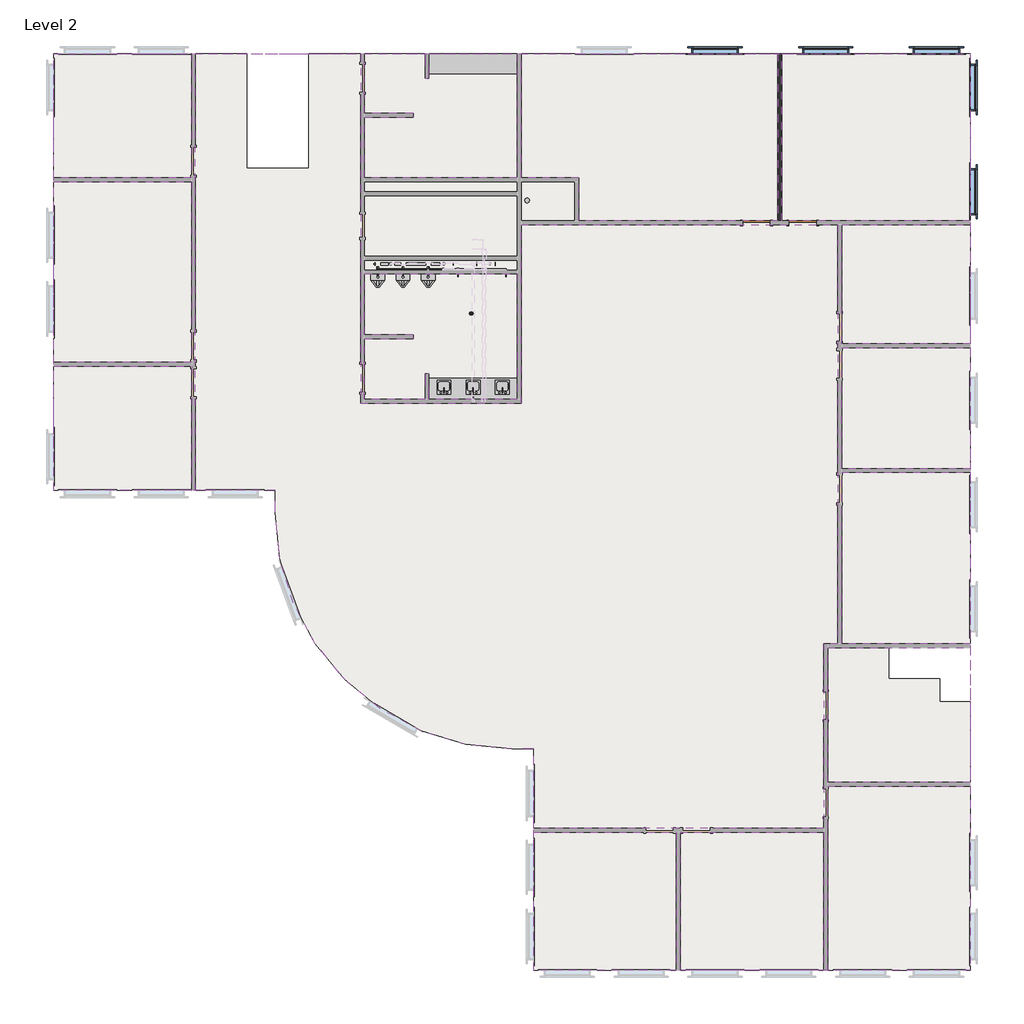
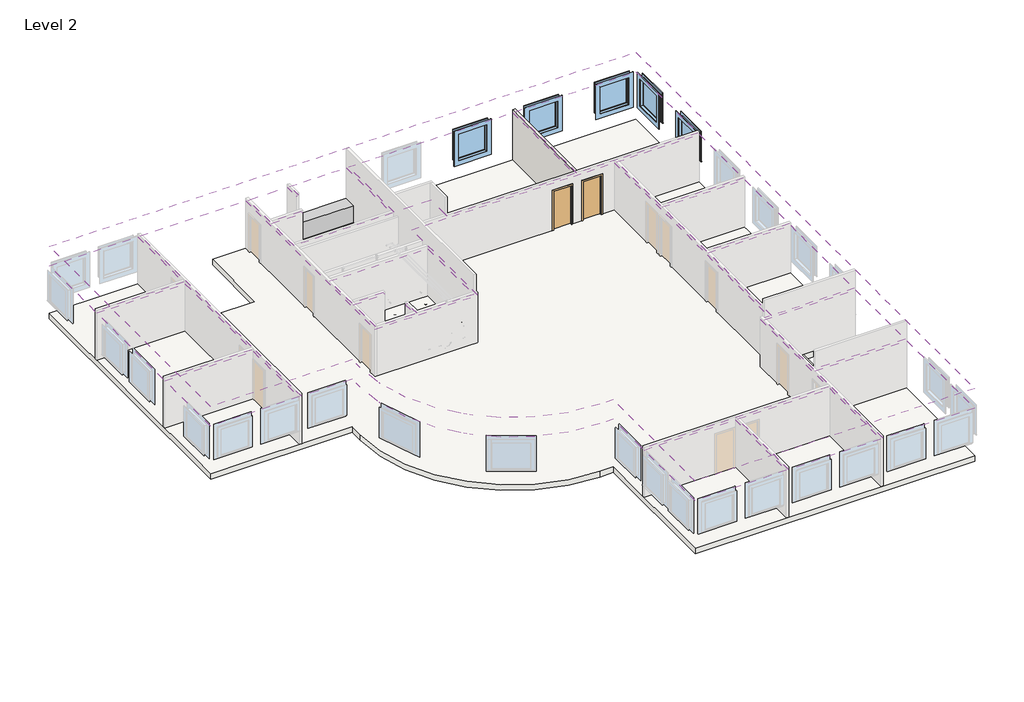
# One storey, part 2 of 5: 15 coverings, 15 pipe segments, 10 flow terminals, 10 pipe fittings, 5 windows, 2 doors, 1 furniture element, 1 roof, 2 other elements.
"""IFC4 building model written with IfcOpenShell, lengths in millimetres."""

from ifc_helpers import new_model, si_unit, point, frame, frame_2d, origin, place, context, project, spatial, polyline, circle_curve, trimmed, segment, composite_curve, outline, extrude, transform, mapped, element, save
from components import door_a1797ceb, door_a3eb833a, flow_terminal_7a061d0c, sink_single_island_private_d5797e09, wall_hung_urinal_standard_f329d971, restroom_cabinet1_restroom_cabinet_eb429586, pipe_elbow_standard_aad62f2d, pipe_elbow_standard_feaaf02c, pipe_pvc_bend_standard_01578e85, pipe_pvc_bend_standard_4dc80f69, pipe_pvc_bend_standard_44ef5a01, pipe_pvc_bend_standard_adf20049, pipe_tee_standard_ee363fbf, fixed_edddcce4

model = new_model("IFC4")

# Units and contexts
model_context = context("Model", 3, world=origin())
ifc_project = project(units=[si_unit("LENGTHUNIT", "METRE", prefix="MILLI")], contexts=[model_context])

# Site, building, storey
site = spatial("IfcSite", under=ifc_project)
building = spatial("IfcBuilding", under=site)
storey = spatial("IfcBuildingStorey", under=building, Name="Level 2", Elevation=3657.6)

# Coverings
placement = place(None, origin())
element("IfcCovering", 1, ObjectType="2' x 2' ACT System", at=placement, inside=storey, context=model_context, shape_type="SweptSolid", body=[
    extrude(outline(polyline([(-4905.3842504, 14991.2099268), (-347.6717504, 14991.2099268), (-347.6717504, 10889.1099268), (-4905.3842504, 10889.1099268), (-4905.3842504, 14991.2099268)])), frame((0.0, 0.0, 6248.4), z_axis=(0.0, 0.0, 1.0), x_axis=(1.0, 0.0, 0.0)), (0.0, 0.0, 1.0), 57.15),
])
element("IfcCovering", 2, ObjectType="2' x 2' ACT System", at=placement, inside=storey, context=model_context, shape_type="SweptSolid", body=[
    extrude(outline(polyline([(-4905.3842504, 4793.1099268), (-4905.3842504, 10762.1099268), (-347.6717504, 10762.1099268), (-347.6717504, 4793.1099268), (-4905.3842504, 4793.1099268)])), frame((0.0, 0.0, 6248.4), z_axis=(0.0, 0.0, 1.0), x_axis=(1.0, 0.0, 0.0)), (0.0, 0.0, 1.0), 57.15),
])
element("IfcCovering", 3, ObjectType="2' x 2' ACT System", at=placement, inside=storey, context=model_context, shape_type="SweptSolid", body=[
    extrude(outline(polyline([(-4905.3842504, 564.0099268), (-4905.3842504, 4666.1099268), (-347.6717504, 4666.1099268), (-347.6717504, 564.0099268), (-4905.3842504, 564.0099268)])), frame((0.0, 0.0, 6248.4), z_axis=(0.0, 0.0, 1.0), x_axis=(1.0, 0.0, 0.0)), (0.0, 0.0, 1.0), 57.15),
])
element("IfcCovering", 4, ObjectType="2' x 2' ACT System", at=placement, inside=storey, context=model_context, shape_type="SweptSolid", body=[
    extrude(outline(composite_curve([segment(polyline([(-220.6717504, 564.0099268), (-220.6717504, 14991.2099268), (5229.2157496, 14991.2099268), (5229.2157496, 3446.9099268), (10537.8157496, 3446.9099268), (10537.8157496, 9339.7099268), (20989.9157496, 9339.7099268), (20989.9157496, -4503.2900732), (20532.7157496, -4503.2900732), (20532.7157496, -10599.2900732), (10944.2157496, -10599.2900732), (10944.2157496, -7970.3900732), (10233.0157496, -7970.3900732)]), True, "CONTINUOUS"), segment(trimmed(circle_curve(frame_2d((10233.0157496, -147.1900732)), 7823.2), [point((10233.0157496, -7970.3900732))], [point((2409.8157496, -147.1900732))], False, "CARTESIAN"), True, "CONTINUOUS"), segment(polyline([(2409.8157496, -147.1900732), (2409.8157496, 564.0099268), (-220.6717504, 564.0099268)]), True, "CONTINUOUS")], self_intersect=False)), frame((0.0, 0.0, 6248.4), z_axis=(0.0, 0.0, 1.0), x_axis=(1.0, 0.0, 0.0)), (0.0, 0.0, 1.0), 57.15),
])
element("IfcCovering", 5, ObjectType="2' x 2' ACT System", at=placement, inside=storey, context=model_context, shape_type="SweptSolid", body=[
    extrude(outline(polyline([(6969.1157496, 5707.5099268), (5356.2157496, 5707.5099268), (5356.2157496, 7714.1099268), (10410.8157496, 7714.1099268), (10410.8157496, 3573.9099268), (7489.8157496, 3573.9099268), (7489.8157496, 4424.8099268), (7362.8157496, 4424.8099268), (7362.8157496, 3573.9099268), (5356.2157496, 3573.9099268), (5356.2157496, 5580.5099268), (6969.1157496, 5580.5099268), (6969.1157496, 5707.5099268)])), frame((0.0, 0.0, 6248.4), z_axis=(0.0, 0.0, 1.0), x_axis=(1.0, 0.0, 0.0)), (0.0, 0.0, 1.0), 57.15),
])
element("IfcCovering", 6, ObjectType="2' x 2' ACT System", at=placement, inside=storey, context=model_context, shape_type="SweptSolid", body=[
    extrude(outline(polyline([(5356.2157496, 13022.7099268), (5356.2157496, 14991.2099268), (7362.8157496, 14991.2099268), (7362.8157496, 14178.4099268), (7489.8157496, 14178.4099268), (7489.8157496, 14991.2099268), (10410.8157496, 14991.2099268), (10410.8157496, 10889.1099268), (5356.2157496, 10889.1099268), (5356.2157496, 12895.7099268), (6969.1157496, 12895.7099268), (6969.1157496, 13022.7099268), (5356.2157496, 13022.7099268)])), frame((0.0, 0.0, 6248.4), z_axis=(0.0, 0.0, 1.0), x_axis=(1.0, 0.0, 0.0)), (0.0, 0.0, 1.0), 57.15),
])
element("IfcCovering", 7, ObjectType="2' x 2' ACT System", at=placement, inside=storey, context=model_context, shape_type="SweptSolid", body=[
    extrude(outline(polyline([(10537.8157496, 14991.2099268), (19008.7157496, 14991.2099268), (19008.7157496, 9466.7099268), (12430.1157496, 9466.7099268), (12430.1157496, 10889.1099268), (10537.8157496, 10889.1099268), (10537.8157496, 14991.2099268)])), frame((0.0, 0.0, 6248.4), z_axis=(0.0, 0.0, 1.0), x_axis=(1.0, 0.0, 0.0)), (0.0, 0.0, 1.0), 57.15),
])
element("IfcCovering", 8, ObjectType="2' x 2' ACT System", at=placement, inside=storey, context=model_context, shape_type="SweptSolid", body=[
    extrude(outline(polyline([(19135.7157496, 9466.7099268), (19135.7157496, 14991.2099268), (25371.4157496, 14991.2099268), (25371.4157496, 9466.7099268), (19135.7157496, 9466.7099268)])), frame((0.0, 0.0, 6248.4), z_axis=(0.0, 0.0, 1.0), x_axis=(1.0, 0.0, 0.0)), (0.0, 0.0, 1.0), 57.15),
])
element("IfcCovering", 9, ObjectType="2' x 2' ACT System", at=placement, inside=storey, context=model_context, shape_type="SweptSolid", body=[
    extrude(outline(polyline([(25371.4157496, 9339.7099268), (25371.4157496, 5402.7099268), (21116.9157496, 5402.7099268), (21116.9157496, 9339.7099268), (25371.4157496, 9339.7099268)])), frame((0.0, 0.0, 6248.4), z_axis=(0.0, 0.0, 1.0), x_axis=(1.0, 0.0, 0.0)), (0.0, 0.0, 1.0), 57.15),
])
element("IfcCovering", 10, ObjectType="2' x 2' ACT System", at=placement, inside=storey, context=model_context, shape_type="SweptSolid", body=[
    extrude(outline(polyline([(25371.4157496, 5275.7099268), (25371.4157496, 1287.9099268), (21116.9157496, 1287.9099268), (21116.9157496, 5275.7099268), (25371.4157496, 5275.7099268)])), frame((0.0, 0.0, 6248.4), z_axis=(0.0, 0.0, 1.0), x_axis=(1.0, 0.0, 0.0)), (0.0, 0.0, 1.0), 57.15),
])
element("IfcCovering", 11, ObjectType="2' x 2' ACT System", at=placement, inside=storey, context=model_context, shape_type="SweptSolid", body=[
    extrude(outline(polyline([(25371.4157496, 1160.9099268), (25371.4157496, -4503.2900732), (21116.9157496, -4503.2900732), (21116.9157496, 1160.9099268), (25371.4157496, 1160.9099268)])), frame((0.0, 0.0, 6248.4), z_axis=(0.0, 0.0, 1.0), x_axis=(1.0, 0.0, 0.0)), (0.0, 0.0, 1.0), 57.15),
])
element("IfcCovering", 12, ObjectType="2' x 2' ACT System", at=placement, inside=storey, context=model_context, shape_type="SweptSolid", body=[
    extrude(outline(polyline([(25371.4157496, -4630.2900732), (25371.4157496, -9075.2900732), (20659.7157496, -9075.2900732), (20659.7157496, -4630.2900732), (25371.4157496, -4630.2900732)])), frame((0.0, 0.0, 6248.4), z_axis=(0.0, 0.0, 1.0), x_axis=(1.0, 0.0, 0.0)), (0.0, 0.0, 1.0), 57.15),
])
element("IfcCovering", 13, ObjectType="2' x 2' ACT System", at=placement, inside=storey, context=model_context, shape_type="SweptSolid", body=[
    extrude(outline(polyline([(25371.4157496, -9202.2900732), (25371.4157496, -15285.5900732), (20659.7157496, -15285.5900732), (20659.7157496, -9202.2900732), (25371.4157496, -9202.2900732)])), frame((0.0, 0.0, 6248.4), z_axis=(0.0, 0.0, 1.0), x_axis=(1.0, 0.0, 0.0)), (0.0, 0.0, 1.0), 57.15),
])
element("IfcCovering", 14, ObjectType="2' x 2' ACT System", at=placement, inside=storey, context=model_context, shape_type="SweptSolid", body=[
    extrude(outline(polyline([(20532.7157496, -15285.5900732), (15782.9157496, -15285.5900732), (15782.9157496, -10726.2900732), (20532.7157496, -10726.2900732), (20532.7157496, -15285.5900732)])), frame((0.0, 0.0, 6248.4), z_axis=(0.0, 0.0, 1.0), x_axis=(1.0, 0.0, 0.0)), (0.0, 0.0, 1.0), 57.15),
])
element("IfcCovering", 15, ObjectType="2' x 2' ACT System", at=placement, inside=storey, context=model_context, shape_type="SweptSolid", body=[
    extrude(outline(polyline([(15655.9157496, -15285.5900732), (10944.2157496, -15285.5900732), (10944.2157496, -10726.2900732), (15655.9157496, -10726.2900732), (15655.9157496, -15285.5900732)])), frame((0.0, 0.0, 6248.4), z_axis=(0.0, 0.0, 1.0), x_axis=(1.0, 0.0, 0.0)), (0.0, 0.0, 1.0), 57.15),
])

# Doors
door_shape = door_a1797ceb(model_context)
element("IfcDoor", 16, ObjectType="Sgl Flush : 36\" x 84\"", at=placement, inside=storey, context=model_context, shape_type="MappedRepresentation", body=[
    mapped(door_shape, transform((18310.2157496, 9403.2099268, 3657.6), x_axis=(1.0, 0.0, 0.0), y_axis=(0.0, 1.0, 0.0), z_axis=(0.0, 0.0, 1.0))),
])
door_2_shape = door_a3eb833a(model_context)
element("IfcDoor", 17, ObjectType="Sgl Flush : 36\" x 84\"", at=placement, inside=storey, context=model_context, shape_type="MappedRepresentation", body=[
    mapped(door_2_shape, transform((19834.2157496, 9403.2099268, 3657.6), x_axis=(-1.0, 0.0, 0.0), y_axis=(0.0, -1.0, 0.0), z_axis=(0.0, 0.0, 1.0))),
])

# Flow terminals
flow_terminal_shape = flow_terminal_7a061d0c(model_context)
element("IfcFlowTerminal", 18, ObjectType="Round Floor Drain : 5\"", at=placement, inside=storey, context=model_context, shape_type="MappedRepresentation", body=[
    mapped(flow_terminal_shape, transform((8886.9621646, 6409.1849268, 3657.6), x_axis=(1.0, 0.0, 0.0), y_axis=(0.0, 1.0, 0.0), z_axis=(0.0, 0.0, 1.0))),
])
sink_single_island_private_shape = sink_single_island_private_d5797e09(model_context)
element("IfcFlowTerminal", 19, ObjectType="Sink - Single Island : Public", at=placement, inside=storey, context=model_context, shape_type="MappedRepresentation", body=[
    mapped(sink_single_island_private_shape, transform((7985.1157496, 3967.6099268, 4572.0), x_axis=(-1.0, 0.0, 0.0), y_axis=(0.0, -1.0, 0.0), z_axis=(0.0, 0.0, 1.0))),
])
element("IfcFlowTerminal", 20, ObjectType="Sink - Single Island : Public", at=placement, inside=storey, context=model_context, shape_type="MappedRepresentation", body=[
    mapped(sink_single_island_private_shape, transform((8950.3157496, 3967.6099268, 4572.0), x_axis=(-1.0, 0.0, 0.0), y_axis=(0.0, -1.0, 0.0), z_axis=(0.0, 0.0, 1.0))),
])
element("IfcFlowTerminal", 21, ObjectType="Sink - Single Island : Public", at=placement, inside=storey, context=model_context, shape_type="MappedRepresentation", body=[
    mapped(sink_single_island_private_shape, transform((9915.5157496, 3967.6099268, 4572.0), x_axis=(-1.0, 0.0, 0.0), y_axis=(0.0, -1.0, 0.0), z_axis=(0.0, 0.0, 1.0))),
])
wall_hung_urinal_standard_shape = wall_hung_urinal_standard_f329d971(model_context)
element("IfcFlowTerminal", 22, ObjectType="Wall Hung Urinal : Standard", at=placement, inside=storey, context=model_context, shape_type="MappedRepresentation", body=[
    mapped(wall_hung_urinal_standard_shape, transform((5800.3032049, 7714.1099268, 4267.2), x_axis=(1.0, 0.0, 0.0), y_axis=(0.0, 0.0, 1.0), z_axis=(0.0, -1.0, 0.0))),
])
element("IfcFlowTerminal", 23, ObjectType="Wall Hung Urinal : Standard", at=placement, inside=storey, context=model_context, shape_type="MappedRepresentation", body=[
    mapped(wall_hung_urinal_standard_shape, transform((6632.6375309, 7714.1099268, 4267.2), x_axis=(1.0, 0.0, 0.0), y_axis=(0.0, 0.0, 1.0), z_axis=(0.0, -1.0, 0.0))),
])
element("IfcFlowTerminal", 24, ObjectType="Wall Hung Urinal : Standard", at=placement, inside=storey, context=model_context, shape_type="MappedRepresentation", body=[
    mapped(wall_hung_urinal_standard_shape, transform((7464.487817, 7714.1099268, 4267.2), x_axis=(1.0, 0.0, 0.0), y_axis=(0.0, 0.0, 1.0), z_axis=(0.0, -1.0, 0.0))),
])
element("IfcFlowTerminal", 25, ObjectType="Wall Hung Urinal : Standard", at=placement, inside=storey, context=model_context, shape_type="MappedRepresentation", body=[
    mapped(wall_hung_urinal_standard_shape, transform((5800.3032049, 7714.1099268, 609.6), x_axis=(1.0, 0.0, 0.0), y_axis=(0.0, 0.0, 1.0), z_axis=(0.0, -1.0, 0.0))),
])
element("IfcFlowTerminal", 26, ObjectType="Wall Hung Urinal : Standard", at=placement, inside=storey, context=model_context, shape_type="MappedRepresentation", body=[
    mapped(wall_hung_urinal_standard_shape, transform((6645.0594773, 7714.1099268, 609.6), x_axis=(1.0, 0.0, 0.0), y_axis=(0.0, 0.0, 1.0), z_axis=(0.0, -1.0, 0.0))),
])
element("IfcFlowTerminal", 27, ObjectType="Wall Hung Urinal : Standard", at=placement, inside=storey, context=model_context, shape_type="MappedRepresentation", body=[
    mapped(wall_hung_urinal_standard_shape, transform((7489.8157496, 7714.1099268, 609.6), x_axis=(1.0, 0.0, 0.0), y_axis=(0.0, 0.0, 1.0), z_axis=(0.0, -1.0, 0.0))),
])

# Furniture
restroom_cabinet1_restroom_cabinet_shape = restroom_cabinet1_restroom_cabinet_eb429586(model_context)
element("IfcFurniture", 28, ObjectType="Restroom Cabinet1 : Restroom Cabinet", at=placement, inside=storey, context=model_context, shape_type="MappedRepresentation", body=[
    mapped(restroom_cabinet1_restroom_cabinet_shape, transform((141.4980289, -20.9577736, 0.0), x_axis=(1.0, 0.0, 0.0), y_axis=(0.0, 1.0, 0.0), z_axis=(0.0, 0.0, 1.0))),
])

# Pipe fittings
pipe_elbow_standard_shape = pipe_elbow_standard_aad62f2d(model_context)
element("IfcPipeFitting", 29, ObjectType="Pipe Elbow : Standard", at=placement, inside=storey, context=model_context, shape_type="MappedRepresentation", body=[
    mapped(pipe_elbow_standard_shape, transform((7883.5157496, 3793.5640359, 4419.6), x_axis=(0.0, 0.0, -1.0), y_axis=(0.0, -1.0, 0.0), z_axis=(-1.0, 0.0, 0.0))),
])
element("IfcPipeFitting", 30, ObjectType="Pipe Elbow : Standard", at=placement, inside=storey, context=model_context, shape_type="MappedRepresentation", body=[
    mapped(pipe_elbow_standard_shape, transform((7883.5157496, 3641.1640359, 4419.6), x_axis=(0.0, -1.0, 0.0), y_axis=(1.0, 0.0, 0.0), z_axis=(0.0, 0.0, 1.0))),
])
pipe_elbow_standard_2_shape = pipe_elbow_standard_feaaf02c(model_context)
element("IfcPipeFitting", 31, ObjectType="Pipe Elbow : Standard", at=placement, inside=storey, context=model_context, shape_type="MappedRepresentation", body=[
    mapped(pipe_elbow_standard_2_shape, transform((5800.3032049, 7611.3193018, 4679.1562398), x_axis=(0.0, 0.0, 1.0), y_axis=(0.0, 1.0, 0.0), z_axis=(-1.0, 0.0, 0.0))),
])
element("IfcPipeFitting", 32, ObjectType="Pipe Elbow : Standard", at=placement, inside=storey, context=model_context, shape_type="MappedRepresentation", body=[
    mapped(pipe_elbow_standard_2_shape, transform((5800.3032049, 7874.3862233, 4679.1562398), x_axis=(-1.0, 0.0, 0.0), y_axis=(0.0, -1.0, 0.0), z_axis=(0.0, 0.0, 1.0))),
])
element("IfcPipeFitting", 33, ObjectType="Pipe Elbow : Standard", at=placement, inside=storey, context=model_context, shape_type="MappedRepresentation", body=[
    mapped(pipe_elbow_standard_2_shape, transform((6632.6375309, 7611.3193018, 4679.1562398), x_axis=(0.0, -1.0, 0.0), y_axis=(0.0, 0.0, -1.0), z_axis=(1.0, 0.0, 0.0))),
])
pipe_pvc_bend_standard_shape = pipe_pvc_bend_standard_01578e85(model_context)
element("IfcPipeFitting", 34, ObjectType="Pipe PVC Bend : Standard", at=placement, inside=storey, context=model_context, shape_type="MappedRepresentation", body=[
    mapped(pipe_pvc_bend_standard_shape, transform((7985.1157496, 3510.4099268, 4122.2083333), x_axis=(-0.9999457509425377, 0.0, 0.010416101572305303), y_axis=(0.00010848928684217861, 0.9999457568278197, 0.010414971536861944), z_axis=(-0.010415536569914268, 0.010415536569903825, -0.9998915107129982))),
])
pipe_pvc_bend_standard_2_shape = pipe_pvc_bend_standard_4dc80f69(model_context)
element("IfcPipeFitting", 35, ObjectType="Pipe PVC Bend : Standard", at=placement, inside=storey, context=model_context, shape_type="MappedRepresentation", body=[
    mapped(pipe_pvc_bend_standard_2_shape, transform((7985.1157496, 3967.6099268, 4126.9708333), x_axis=(0.0, 0.0, -1.0), y_axis=(0.0, -1.0, 0.0), z_axis=(-1.0, 0.0, 0.0))),
])
pipe_pvc_bend_standard_3_shape = pipe_pvc_bend_standard_44ef5a01(model_context)
element("IfcPipeFitting", 36, ObjectType="Pipe PVC Bend : Standard", at=placement, inside=storey, context=model_context, shape_type="MappedRepresentation", body=[
    mapped(pipe_pvc_bend_standard_3_shape, transform((5800.4601932, 7645.4380714, 3985.2054757), x_axis=(0.0, 0.0, -1.0), y_axis=(-0.0008328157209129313, 0.9999996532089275, 0.0), z_axis=(0.9999996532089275, 0.0008328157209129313, 0.0))),
])
pipe_pvc_bend_standard_4_shape = pipe_pvc_bend_standard_adf20049(model_context)
element("IfcPipeFitting", 37, ObjectType="Pipe PVC Bend : Standard", at=placement, inside=storey, context=model_context, shape_type="MappedRepresentation", body=[
    mapped(pipe_pvc_bend_standard_4_shape, transform((6632.5917665, 7645.4382206, 3976.5778908), x_axis=(0.0, 0.0, -1.0), y_axis=(3.4592345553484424e-05, 0.9999999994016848, 0.0), z_axis=(0.9999999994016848, -3.4592345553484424e-05, 0.0))),
])
pipe_tee_standard_shape = pipe_tee_standard_ee363fbf(model_context)
element("IfcPipeFitting", 38, ObjectType="Pipe Tee : Standard", at=placement, inside=storey, context=model_context, shape_type="MappedRepresentation", body=[
    mapped(pipe_tee_standard_shape, transform((6632.6375309, 7874.3862233, 4679.1562398), x_axis=(-1.0, 0.0, 0.0), y_axis=(0.0, 1.0, 0.0), z_axis=(0.0, 0.0, -1.0))),
])

# Pipe segments
element("IfcPipeSegment", 39, ObjectType="Cold Water", at=placement, inside=storey, context=model_context, shape_type="SweptSolid", body=[
    extrude(outline(composite_curve([segment(trimmed(circle_curve(frame_2d((4419.6, 7883.5157496)), 7.9375), [point((4419.6, 7875.5782496))], [point((4411.6625, 7883.5157496))], False, "CARTESIAN"), True, "CONTINUOUS"), segment(trimmed(circle_curve(frame_2d((4419.6, 7883.5157496)), 7.9375), [point((4411.6625, 7883.5157496))], [point((4419.6, 7891.4532496))], False, "CARTESIAN"), True, "CONTINUOUS"), segment(trimmed(circle_curve(frame_2d((4419.6, 7883.5157496)), 7.9375), [point((4419.6, 7891.4532496))], [point((4427.5375, 7883.5157496))], False, "CARTESIAN"), True, "CONTINUOUS"), segment(trimmed(circle_curve(frame_2d((4419.6, 7883.5157496)), 7.9375), [point((4427.5375, 7883.5157496))], [point((4419.6, 7875.5782496))], False, "CARTESIAN"), True, "CONTINUOUS")], self_intersect=False)), frame((0.0, 3658.6265359, 0.0), z_axis=(0.0, 1.0, 0.0), x_axis=(0.0, 0.0, 1.0)), (0.0, 0.0, 1.0), 117.475),
])
element("IfcPipeSegment", 40, ObjectType="Cold Water", at=placement, inside=storey, context=model_context, shape_type="SweptSolid", body=[
    extrude(outline(composite_curve([segment(trimmed(circle_curve(frame_2d((7883.5157496, 3793.5640359)), 7.9375), [point((7891.4532496, 3793.5640359))], [point((7883.5157496, 3785.6265359))], False, "CARTESIAN"), True, "CONTINUOUS"), segment(trimmed(circle_curve(frame_2d((7883.5157496, 3793.5640359)), 7.9375), [point((7883.5157496, 3785.6265359))], [point((7875.5782496, 3793.5640359))], False, "CARTESIAN"), True, "CONTINUOUS"), segment(trimmed(circle_curve(frame_2d((7883.5157496, 3793.5640359)), 7.9375), [point((7875.5782496, 3793.5640359))], [point((7883.5157496, 3801.5015359))], False, "CARTESIAN"), True, "CONTINUOUS"), segment(trimmed(circle_curve(frame_2d((7883.5157496, 3793.5640359)), 7.9375), [point((7883.5157496, 3801.5015359))], [point((7891.4532496, 3793.5640359))], False, "CARTESIAN"), True, "CONTINUOUS")], self_intersect=False)), frame((0.0, 0.0, 4437.0625), z_axis=(0.0, 0.0, 1.0), x_axis=(1.0, 0.0, 0.0)), (0.0, 0.0, 1.0), 134.9375),
])
element("IfcPipeSegment", 41, ObjectType="Cold Water", at=placement, inside=storey, context=model_context, shape_type="SweptSolid", body=[
    extrude(outline(composite_curve([segment(trimmed(circle_curve(frame_2d((5800.3032049, 7611.3193018)), 11.1125), [point((5789.1907049, 7611.3193018))], [point((5800.3032049, 7622.4318018))], False, "CARTESIAN"), True, "CONTINUOUS"), segment(trimmed(circle_curve(frame_2d((5800.3032049, 7611.3193018)), 11.1125), [point((5800.3032049, 7622.4318018))], [point((5811.4157049, 7611.3193018))], False, "CARTESIAN"), True, "CONTINUOUS"), segment(trimmed(circle_curve(frame_2d((5800.3032049, 7611.3193018)), 11.1125), [point((5811.4157049, 7611.3193018))], [point((5800.3032049, 7600.2068018))], False, "CARTESIAN"), True, "CONTINUOUS"), segment(trimmed(circle_curve(frame_2d((5800.3032049, 7611.3193018)), 11.1125), [point((5800.3032049, 7600.2068018))], [point((5789.1907049, 7611.3193018))], False, "CARTESIAN"), True, "CONTINUOUS")], self_intersect=False)), frame((0.0, 0.0, 4633.11875), z_axis=(0.0, 0.0, 1.0), x_axis=(1.0, 0.0, 0.0)), (0.0, 0.0, 1.0), 25.3999898),
])
element("IfcPipeSegment", 42, ObjectType="Cold Water", at=placement, inside=storey, context=model_context, shape_type="SweptSolid", body=[
    extrude(outline(composite_curve([segment(trimmed(circle_curve(frame_2d((4679.1562398, 5800.3032049)), 11.1125), [point((4679.1562398, 5811.4157049))], [point((4690.2687398, 5800.3032049))], False, "CARTESIAN"), True, "CONTINUOUS"), segment(trimmed(circle_curve(frame_2d((4679.1562398, 5800.3032049)), 11.1125), [point((4690.2687398, 5800.3032049))], [point((4679.1562398, 5789.1907049))], False, "CARTESIAN"), True, "CONTINUOUS"), segment(trimmed(circle_curve(frame_2d((4679.1562398, 5800.3032049)), 11.1125), [point((4679.1562398, 5789.1907049))], [point((4668.0437398, 5800.3032049))], False, "CARTESIAN"), True, "CONTINUOUS"), segment(trimmed(circle_curve(frame_2d((4679.1562398, 5800.3032049)), 11.1125), [point((4668.0437398, 5800.3032049))], [point((4679.1562398, 5811.4157049))], False, "CARTESIAN"), True, "CONTINUOUS")], self_intersect=False)), frame((0.0, 7631.9568018, 0.0), z_axis=(0.0, 1.0, 0.0), x_axis=(0.0, 0.0, 1.0)), (0.0, 0.0, 1.0), 221.7919215),
])
element("IfcPipeSegment", 43, ObjectType="Cold Water", at=placement, inside=storey, context=model_context, shape_type="SweptSolid", body=[
    extrude(outline(composite_curve([segment(trimmed(circle_curve(frame_2d((7874.3862233, 4679.1562398)), 11.1125), [point((7885.4987233, 4679.1562398))], [point((7874.3862233, 4668.0437398))], False, "CARTESIAN"), True, "CONTINUOUS"), segment(trimmed(circle_curve(frame_2d((7874.3862233, 4679.1562398)), 11.1125), [point((7874.3862233, 4668.0437398))], [point((7863.2737233, 4679.1562398))], False, "CARTESIAN"), True, "CONTINUOUS"), segment(trimmed(circle_curve(frame_2d((7874.3862233, 4679.1562398)), 11.1125), [point((7863.2737233, 4679.1562398))], [point((7874.3862233, 4690.2687398))], False, "CARTESIAN"), True, "CONTINUOUS"), segment(trimmed(circle_curve(frame_2d((7874.3862233, 4679.1562398)), 11.1125), [point((7874.3862233, 4690.2687398))], [point((7885.4987233, 4679.1562398))], False, "CARTESIAN"), True, "CONTINUOUS")], self_intersect=False)), frame((5820.9407049, 0.0, 0.0), z_axis=(1.0, 0.0, 0.0), x_axis=(0.0, 1.0, 0.0)), (0.0, 0.0, 1.0), 784.709326),
])
element("IfcPipeSegment", 44, ObjectType="Cold Water", at=placement, inside=storey, context=model_context, shape_type="SweptSolid", body=[
    extrude(outline(composite_curve([segment(trimmed(circle_curve(frame_2d((6632.6375309, 7611.3193018)), 11.1125), [point((6621.5250309, 7611.3193018))], [point((6632.6375309, 7622.4318018))], False, "CARTESIAN"), True, "CONTINUOUS"), segment(trimmed(circle_curve(frame_2d((6632.6375309, 7611.3193018)), 11.1125), [point((6632.6375309, 7622.4318018))], [point((6643.7500309, 7611.3193018))], False, "CARTESIAN"), True, "CONTINUOUS"), segment(trimmed(circle_curve(frame_2d((6632.6375309, 7611.3193018)), 11.1125), [point((6643.7500309, 7611.3193018))], [point((6632.6375309, 7600.2068018))], False, "CARTESIAN"), True, "CONTINUOUS"), segment(trimmed(circle_curve(frame_2d((6632.6375309, 7611.3193018)), 11.1125), [point((6632.6375309, 7600.2068018))], [point((6621.5250309, 7611.3193018))], False, "CARTESIAN"), True, "CONTINUOUS")], self_intersect=False)), frame((0.0, 0.0, 4633.11875), z_axis=(0.0, 0.0, 1.0), x_axis=(1.0, 0.0, 0.0)), (0.0, 0.0, 1.0), 25.3999898),
])
element("IfcPipeSegment", 45, ObjectType="Cold Water", at=placement, inside=storey, context=model_context, shape_type="SweptSolid", body=[
    extrude(outline(composite_curve([segment(trimmed(circle_curve(frame_2d((4679.1562398, 6632.6375309)), 11.1125), [point((4679.1562398, 6643.7500309))], [point((4690.2687398, 6632.6375309))], False, "CARTESIAN"), True, "CONTINUOUS"), segment(trimmed(circle_curve(frame_2d((4679.1562398, 6632.6375309)), 11.1125), [point((4690.2687398, 6632.6375309))], [point((4679.1562398, 6621.5250309))], False, "CARTESIAN"), True, "CONTINUOUS"), segment(trimmed(circle_curve(frame_2d((4679.1562398, 6632.6375309)), 11.1125), [point((4679.1562398, 6621.5250309))], [point((4668.0437398, 6632.6375309))], False, "CARTESIAN"), True, "CONTINUOUS"), segment(trimmed(circle_curve(frame_2d((4679.1562398, 6632.6375309)), 11.1125), [point((4668.0437398, 6632.6375309))], [point((4679.1562398, 6643.7500309))], False, "CARTESIAN"), True, "CONTINUOUS")], self_intersect=False)), frame((0.0, 7631.9568018, 0.0), z_axis=(0.0, 1.0, 0.0), x_axis=(0.0, 0.0, 1.0)), (0.0, 0.0, 1.0), 215.4419215),
])
element("IfcPipeSegment", 46, ObjectType="PVC Sanitary", at=placement, inside=storey, context=model_context, shape_type="SweptSolid", body=[
    extrude(outline(composite_curve([segment(trimmed(circle_curve(frame_2d((7985.1157496, 3967.6099268)), 24.13), [point((8009.2457496, 3967.6099268))], [point((7985.1157496, 3943.4799268))], False, "CARTESIAN"), True, "CONTINUOUS"), segment(trimmed(circle_curve(frame_2d((7985.1157496, 3967.6099268)), 24.13), [point((7985.1157496, 3943.4799268))], [point((7960.9857496, 3967.6099268))], False, "CARTESIAN"), True, "CONTINUOUS"), segment(trimmed(circle_curve(frame_2d((7985.1157496, 3967.6099268)), 24.13), [point((7960.9857496, 3967.6099268))], [point((7985.1157496, 3991.7399268))], False, "CARTESIAN"), True, "CONTINUOUS"), segment(trimmed(circle_curve(frame_2d((7985.1157496, 3967.6099268)), 24.13), [point((7985.1157496, 3991.7399268))], [point((8009.2457496, 3967.6099268))], False, "CARTESIAN"), True, "CONTINUOUS")], self_intersect=False)), frame((0.0, 0.0, 4166.5612849), z_axis=(0.0, 0.0, 1.0), x_axis=(1.0, 0.0, 0.0)), (0.0, 0.0, 1.0), 192.7137151),
])
element("IfcPipeSegment", 47, ObjectType="PVC Sanitary", at=placement, inside=storey, context=model_context, shape_type="SweptSolid", body=[
    extrude(outline(composite_curve([segment(trimmed(circle_curve(frame_2d((0.0, 24.1299999)), 24.13), [point((24.13, 24.1299999))], [point((0.0, 0.0))], False, "CARTESIAN"), True, "CONTINUOUS"), segment(trimmed(circle_curve(frame_2d((0.0, 24.1299999)), 24.13), [point((0.0, 0.0))], [point((-24.13, 24.1299999))], False, "CARTESIAN"), True, "CONTINUOUS"), segment(trimmed(circle_curve(frame_2d((0.0, 24.1299999)), 24.13), [point((-24.13, 24.1299999))], [point((0.0, 48.26))], False, "CARTESIAN"), True, "CONTINUOUS"), segment(trimmed(circle_curve(frame_2d((0.0, 24.1299999)), 24.13), [point((0.0, 48.26))], [point((24.13, 24.1299999))], False, "CARTESIAN"), True, "CONTINUOUS")], self_intersect=False)), frame((7985.1157496, 3550.1570761, 4146.7536752), z_axis=(0.0, 0.999945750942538, 0.010416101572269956), x_axis=(1.0, 0.0, 0.0)), (0.0, 0.0, 1.0), 377.6336925),
])
element("IfcPipeSegment", 48, ObjectType="PVC Sanitary", at=placement, inside=storey, context=model_context, shape_type="SweptSolid", body=[
    extrude(outline(composite_curve([segment(trimmed(circle_curve(frame_2d((0.0, -30.1625001)), 30.1625), [point((30.1625001, -30.1622411))], [point((0.0002589, -60.325))], False, "CARTESIAN"), True, "CONTINUOUS"), segment(trimmed(circle_curve(frame_2d((0.0, -30.1625001)), 30.1625), [point((0.0002589, -60.325))], [point((-30.1625, -30.162759))], False, "CARTESIAN"), True, "CONTINUOUS"), segment(trimmed(circle_curve(frame_2d((0.0, -30.1625001)), 30.1625), [point((-30.1625, -30.162759))], [point((-0.0002589, 0.0))], False, "CARTESIAN"), True, "CONTINUOUS"), segment(trimmed(circle_curve(frame_2d((0.0, -30.1625001)), 30.1625), [point((-0.0002589, 0.0))], [point((30.1625001, -30.1622411))], False, "CARTESIAN"), True, "CONTINUOUS")], self_intersect=False)), frame((5800.2277631, 7950.2366431, 4012.4894725), z_axis=(0.000832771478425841, -0.999946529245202, 0.010307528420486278), x_axis=(0.9999996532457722, 0.0008327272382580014, -8.583818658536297e-06)), (0.0, 0.0, 1.0), 258.9358491),
])
element("IfcPipeSegment", 49, ObjectType="PVC Sanitary", at=placement, inside=storey, context=model_context, shape_type="SweptSolid", body=[
    extrude(outline(composite_curve([segment(trimmed(circle_curve(frame_2d((5800.4601932, 7645.4380714)), 30.1625), [point((5830.6226932, 7645.4380714))], [point((5800.4601932, 7615.2755714))], False, "CARTESIAN"), True, "CONTINUOUS"), segment(trimmed(circle_curve(frame_2d((5800.4601932, 7645.4380714)), 30.1625), [point((5800.4601932, 7615.2755714))], [point((5770.2976932, 7645.4380714))], False, "CARTESIAN"), True, "CONTINUOUS"), segment(trimmed(circle_curve(frame_2d((5800.4601932, 7645.4380714)), 30.1625), [point((5770.2976932, 7645.4380714))], [point((5800.4601932, 7675.6005714))], False, "CARTESIAN"), True, "CONTINUOUS"), segment(trimmed(circle_curve(frame_2d((5800.4601932, 7645.4380714)), 30.1625), [point((5800.4601932, 7675.6005714))], [point((5830.6226932, 7645.4380714))], False, "CARTESIAN"), True, "CONTINUOUS")], self_intersect=False)), frame((0.0, 0.0, 4030.7708634), z_axis=(0.0, 0.0, 1.0), x_axis=(1.0, 0.0, 0.0)), (0.0, 0.0, 1.0), 53.8666366),
])
element("IfcPipeSegment", 50, ObjectType="PVC Sanitary", at=placement, inside=storey, context=model_context, shape_type="SweptSolid", body=[
    extrude(outline(composite_curve([segment(trimmed(circle_curve(frame_2d((0.0, -30.1625001)), 30.1625), [point((30.1625, -30.1625109))], [point((-1.08e-05, -60.325))], False, "CARTESIAN"), True, "CONTINUOUS"), segment(trimmed(circle_curve(frame_2d((0.0, -30.1625001)), 30.1625), [point((-1.08e-05, -60.325))], [point((-30.1624999, -30.1624892))], False, "CARTESIAN"), True, "CONTINUOUS"), segment(trimmed(circle_curve(frame_2d((0.0, -30.1625001)), 30.1625), [point((-30.1624999, -30.1624892))], [point((1.09e-05, 0.0))], False, "CARTESIAN"), True, "CONTINUOUS"), segment(trimmed(circle_curve(frame_2d((0.0, -30.1625001)), 30.1625), [point((1.09e-05, 0.0))], [point((30.1625, -30.1625109))], False, "CARTESIAN"), True, "CONTINUOUS")], self_intersect=False)), frame((6632.6014205, 7950.2403858, 4003.8281002), z_axis=(-3.459046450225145e-05, -0.9999456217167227, 0.010428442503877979), x_axis=(0.9999999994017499, -3.45885835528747e-05, 3.6072466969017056e-07)), (0.0, 0.0, 1.0), 258.9415357),
])
element("IfcPipeSegment", 51, ObjectType="PVC Sanitary", at=placement, inside=storey, context=model_context, shape_type="SweptSolid", body=[
    extrude(outline(composite_curve([segment(trimmed(circle_curve(frame_2d((6632.5917665, 7645.4382206)), 30.1625), [point((6662.7542665, 7645.4382206))], [point((6632.5917665, 7615.2757206))], False, "CARTESIAN"), True, "CONTINUOUS"), segment(trimmed(circle_curve(frame_2d((6632.5917665, 7645.4382206)), 30.1625), [point((6632.5917665, 7615.2757206))], [point((6602.4292665, 7645.4382206))], False, "CARTESIAN"), True, "CONTINUOUS"), segment(trimmed(circle_curve(frame_2d((6632.5917665, 7645.4382206)), 30.1625), [point((6602.4292665, 7645.4382206))], [point((6632.5917665, 7675.6007206))], False, "CARTESIAN"), True, "CONTINUOUS"), segment(trimmed(circle_curve(frame_2d((6632.5917665, 7645.4382206)), 30.1625), [point((6632.5917665, 7675.6007206))], [point((6662.7542665, 7645.4382206))], False, "CARTESIAN"), True, "CONTINUOUS")], self_intersect=False)), frame((0.0, 0.0, 4022.1377689), z_axis=(0.0, 0.0, 1.0), x_axis=(1.0, 0.0, 0.0)), (0.0, 0.0, 1.0), 62.4997311),
])
element("IfcPipeSegment", 52, ObjectType="PVC Sanitary", at=placement, inside=storey, context=model_context, shape_type="SweptSolid", body=[
    extrude(outline(composite_curve([segment(trimmed(circle_curve(frame_2d((0.0, -30.1624999)), 30.1625), [point((30.1625, -30.1625109))], [point((-1.1e-05, -60.3249999))], False, "CARTESIAN"), True, "CONTINUOUS"), segment(trimmed(circle_curve(frame_2d((0.0, -30.1624999)), 30.1625), [point((-1.1e-05, -60.3249999))], [point((-30.1625, -30.1624889))], False, "CARTESIAN"), True, "CONTINUOUS"), segment(trimmed(circle_curve(frame_2d((0.0, -30.1624999)), 30.1625), [point((-30.1625, -30.1624889))], [point((1.1e-05, 0.0))], False, "CARTESIAN"), True, "CONTINUOUS"), segment(trimmed(circle_curve(frame_2d((0.0, -30.1624999)), 30.1625), [point((1.1e-05, 0.0))], [point((30.1625, -30.1625109))], False, "CARTESIAN"), True, "CONTINUOUS")], self_intersect=False)), frame((7464.451587, 7950.2443056, 3995.1789586), z_axis=(-3.45904193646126e-05, -0.9999443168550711, 0.010552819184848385), x_axis=(0.9999999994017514, -3.458849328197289e-05, 3.650264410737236e-07)), (0.0, 0.0, 1.0), 258.9476627),
])
element("IfcPipeSegment", 53, ObjectType="PVC Sanitary", at=placement, inside=storey, context=model_context, shape_type="SweptSolid", body=[
    extrude(outline(composite_curve([segment(trimmed(circle_curve(frame_2d((7464.441933, 7645.4382598)), 30.1625), [point((7494.604433, 7645.4382598))], [point((7464.441933, 7615.2757598))], False, "CARTESIAN"), True, "CONTINUOUS"), segment(trimmed(circle_curve(frame_2d((7464.441933, 7645.4382598)), 30.1625), [point((7464.441933, 7615.2757598))], [point((7434.279433, 7645.4382598))], False, "CARTESIAN"), True, "CONTINUOUS"), segment(trimmed(circle_curve(frame_2d((7464.441933, 7645.4382598)), 30.1625), [point((7434.279433, 7645.4382598))], [point((7464.441933, 7675.6007598))], False, "CARTESIAN"), True, "CONTINUOUS"), segment(trimmed(circle_curve(frame_2d((7464.441933, 7645.4382598)), 30.1625), [point((7464.441933, 7675.6007598))], [point((7494.604433, 7645.4382598))], False, "CARTESIAN"), True, "CONTINUOUS")], self_intersect=False)), frame((0.0, 0.0, 4013.5177191), z_axis=(0.0, 0.0, 1.0), x_axis=(1.0, 0.0, 0.0)), (0.0, 0.0, 1.0), 71.1197809),
])

# Roof
element("IfcRoof", 54, ObjectType="Roof 1", at=placement, inside=storey, context=model_context, shape_type="SweptSolid", body=[
    extrude(outline(composite_curve([segment(polyline([(-4905.3842504, 14991.2099268), (25371.4157496, 14991.2099268), (25371.4157496, -15285.5900732), (10944.2157496, -15285.5900732), (10944.2157496, -7970.3900732), (10233.0157496, -7970.3900732)]), True, "CONTINUOUS"), segment(trimmed(circle_curve(frame_2d((10233.0157496, -147.1900732)), 7823.2), [point((10233.0157496, -7970.3900732))], [point((2409.8157496, -147.1900732))], False, "CARTESIAN"), True, "CONTINUOUS"), segment(polyline([(2409.8157496, -147.1900732), (2409.8157496, 564.0099268), (-4905.3842504, 564.0099268), (-4905.3842504, 14991.2099268)]), True, "CONTINUOUS")], self_intersect=False)), frame((0.0, 0.0, 7315.2), z_axis=(0.0, 0.0, 1.0), x_axis=(1.0, 0.0, 0.0)), (0.0, 0.0, 1.0), 304.8),
])

# Slab
element("IfcSlab", 55, ObjectType="Floor 1", at=placement, inside=storey, context=model_context, shape_type="SweptSolid", body=[
    extrude(outline(composite_curve([segment(polyline([(-4905.3842504, 14991.2099268), (1475.7543833, 14991.2099268), (1475.7543833, 11199.1758882), (3515.756482, 11199.1758882), (3515.756482, 14991.2099268), (25371.4157496, 14991.2099268), (25371.4157496, -4630.2900732), (22679.0157496, -4630.2900732), (22679.0157496, -5654.4521901), (24355.4157496, -5654.4521901), (24355.4157496, -6416.4521901), (25371.4157496, -6416.4521901), (25371.4157496, -15285.5900732), (10944.2157496, -15285.5900732), (10944.2157496, -7970.3900732), (10233.0157496, -7970.3900732)]), True, "CONTINUOUS"), segment(trimmed(circle_curve(frame_2d((10233.0157496, -147.1900732)), 7823.2), [point((10233.0157496, -7970.3900732))], [point((2409.8157496, -147.1900732))], False, "CARTESIAN"), True, "CONTINUOUS"), segment(polyline([(2409.8157496, -147.1900732), (2409.8157496, 564.0099268), (-4905.3842504, 564.0099268), (-4905.3842504, 14991.2099268)]), True, "CONTINUOUS")], self_intersect=False)), frame((0.0, 0.0, 3352.8), z_axis=(0.0, 0.0, 1.0), x_axis=(1.0, 0.0, 0.0)), (0.0, 0.0, 1.0), 304.8),
])

# Wall
element("IfcWall", 56, ObjectType="Interior - 5\" Partition (2-hr)", at=placement, inside=storey, context=model_context, shape_type="SweptSolid", body=[
    extrude(outline(polyline([(19008.7157496, 9466.7099268), (19008.7157496, 14991.2099268), (19135.7157496, 14991.2099268), (19135.7157496, 9466.7099268), (19008.7157496, 9466.7099268)])), frame((0.0, 0.0, 3657.6), z_axis=(0.0, 0.0, 1.0), x_axis=(1.0, 0.0, 0.0)), (0.0, 0.0, 1.0), 2743.2),
])

# Windows
fixed_shape = fixed_edddcce4(model_context)
element("IfcWindow", 57, ObjectType="Fixed : 60\"w x 60\"h", at=placement, inside=storey, context=model_context, shape_type="MappedRepresentation", body=[
    mapped(fixed_shape, transform((16976.7157496, 15092.8099268, 3657.6), x_axis=(1.0, 0.0, 0.0), y_axis=(0.0, 1.0, 0.0), z_axis=(0.0, 0.0, 1.0))),
])
element("IfcWindow", 58, ObjectType="Fixed : 60\"w x 60\"h", at=placement, inside=storey, context=model_context, shape_type="MappedRepresentation", body=[
    mapped(fixed_shape, transform((20634.3157496, 15092.8099268, 3657.6), x_axis=(1.0, 0.0, 0.0), y_axis=(0.0, 1.0, 0.0), z_axis=(0.0, 0.0, 1.0))),
])
element("IfcWindow", 59, ObjectType="Fixed : 60\"w x 60\"h", at=placement, inside=storey, context=model_context, shape_type="MappedRepresentation", body=[
    mapped(fixed_shape, transform((24291.9157496, 15092.8099268, 3657.6), x_axis=(1.0, 0.0, 0.0), y_axis=(0.0, 1.0, 0.0), z_axis=(0.0, 0.0, 1.0))),
])
element("IfcWindow", 60, ObjectType="Fixed : 60\"w x 60\"h", at=placement, inside=storey, context=model_context, shape_type="MappedRepresentation", body=[
    mapped(fixed_shape, transform((25473.0157496, 13835.5099268, 3657.6), x_axis=(0.0, -1.0, 0.0), y_axis=(1.0, 0.0, 0.0), z_axis=(0.0, 0.0, 1.0))),
])
element("IfcWindow", 61, ObjectType="Fixed : 60\"w x 60\"h", at=placement, inside=storey, context=model_context, shape_type="MappedRepresentation", body=[
    mapped(fixed_shape, transform((25473.0157496, 10391.4286768, 3657.6), x_axis=(0.0, -1.0, 0.0), y_axis=(1.0, 0.0, 0.0), z_axis=(0.0, 0.0, 1.0))),
])

save(model, "model.ifc")
